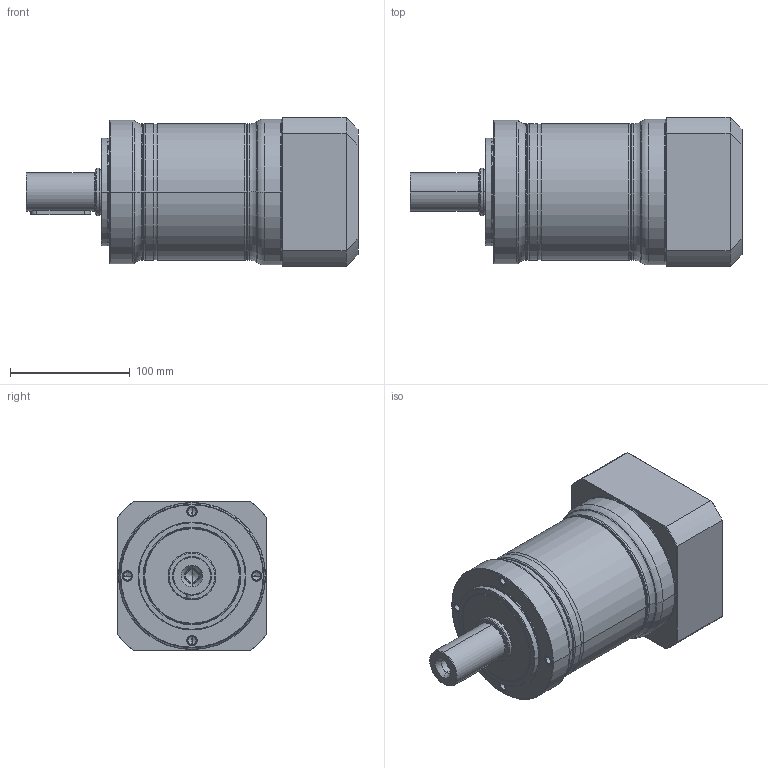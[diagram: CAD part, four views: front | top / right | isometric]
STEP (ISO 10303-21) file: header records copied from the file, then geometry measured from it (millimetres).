
FILE_DESCRIPTION((''),'2;1');
FILE_NAME('PE2-120_2ST_32-P0411700101_ASM','2016-05-03T',('d00435'),(''),'PRO/ENGINEER BY PARAMETRIC TECHNOLOGY CORPORATION, 2008410','PRO/ENGINEER BY PARAMETRIC TECHNOLOGY CORPORATION, 2008410','');
FILE_SCHEMA(('CONFIG_CONTROL_DESIGN'));
Length unit declared in the file: millimetre
Products named in the file (9): P1323410001; P0251400001; P1324400301; P0350401001; P0941403001; P0503700010; P0411700101; P1702600001; PE2-120_2ST_32-P0411700101_ASM
Assembly tree (8 placements, depth 2):
  PE2-120_2ST_32-P0411700101_ASM
    P1323410001
    P0251400001
    P1324400301
    P0350401001
    P0941403001
    P0503700010
    P0411700101
    P1702600001
Bounding box: 277.5 x 125 x 125 mm (x, y, z)
Volume: 1794960.2 mm3; surface area: 294977.8 mm2
Topology: 8 solids, 22 shells, 539 faces, 1204 edges, 710 vertices
Faces by surface type: cylinder 172, cone 148, torus 106, plane 97, bspline 16
Entity records: 19796 total; most frequent: CARTESIAN_POINT 7478, DIRECTION 2843, ORIENTED_EDGE 2280, AXIS2_PLACEMENT_3D 1230, EDGE_CURVE 1168, VERTEX_POINT 710, CIRCLE 680, EDGE_LOOP 620
